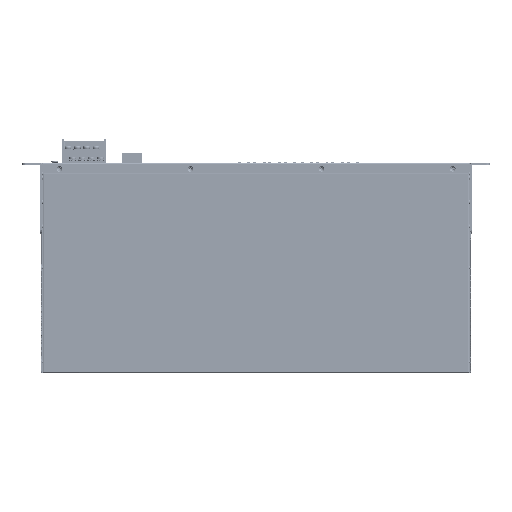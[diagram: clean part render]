
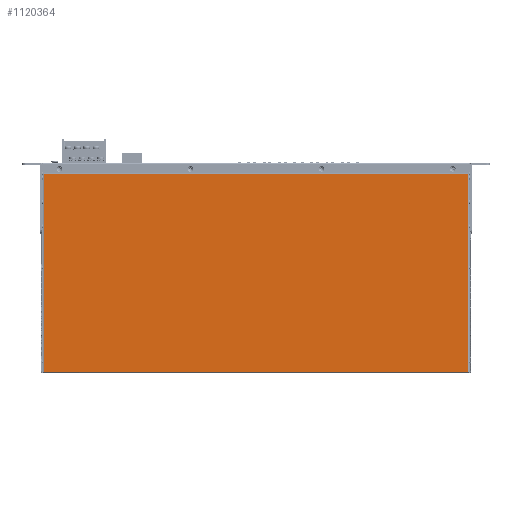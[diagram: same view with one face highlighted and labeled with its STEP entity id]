
A CAD part, front view. The second image highlights one B-rep face of the part: STEP entity #1120364.
In plain terms, the highlighted planar face has unit normal (0, -1, 0).
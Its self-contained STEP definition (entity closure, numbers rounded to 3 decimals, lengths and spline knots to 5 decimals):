
#307244=ORIENTED_EDGE('',*,*,#518808,.T.);
#307245=ORIENTED_EDGE('',*,*,#518593,.T.);
#307246=ORIENTED_EDGE('',*,*,#518624,.T.);
#307247=ORIENTED_EDGE('',*,*,#518809,.T.);
#307248=ORIENTED_EDGE('',*,*,#518237,.T.);
#307249=ORIENTED_EDGE('',*,*,#518810,.T.);
#518237=EDGE_CURVE('',#648394,#648393,#764120,.T.);
#518593=EDGE_CURVE('',#648772,#648773,#764127,.F.);
#518624=EDGE_CURVE('',#648773,#648791,#764151,.F.);
#518808=EDGE_CURVE('',#648907,#648772,#764280,.F.);
#518809=EDGE_CURVE('',#648791,#648394,#764281,.T.);
#518810=EDGE_CURVE('',#648393,#648907,#764282,.F.);
#648393=VERTEX_POINT('',#1826165);
#648394=VERTEX_POINT('',#1826167);
#648772=VERTEX_POINT('',#1827555);
#648773=VERTEX_POINT('',#1827556);
#648791=VERTEX_POINT('',#1827618);
#648907=VERTEX_POINT('',#1828041);
#764120=LINE('',#1826166,#881047);
#764127=LINE('',#1827554,#881054);
#764151=LINE('',#1827619,#881078);
#764280=LINE('',#1828040,#881207);
#764281=LINE('',#1828042,#881208);
#764282=LINE('',#1828043,#881209);
#881047=VECTOR('',#1446867,1.);
#881054=VECTOR('',#1448098,1.);
#881078=VECTOR('',#1448154,1.);
#881207=VECTOR('',#1448521,1.);
#881208=VECTOR('',#1448522,1.);
#881209=VECTOR('',#1448523,1.);
#960469=EDGE_LOOP('',(#307244,#307245,#307246,#307247,#307248,#307249));
#1023218=FACE_BOUND('',#960469,.T.);
#1067982=PLANE('',#1212275);
#1120364=ADVANCED_FACE('',(#1023218),#1067982,.F.);
#1212275=AXIS2_PLACEMENT_3D('',#1828039,#1448519,#1448520);
#1446867=DIRECTION('',(1.,0.,0.));
#1448098=DIRECTION('',(1.,0.,0.));
#1448154=DIRECTION('',(1.,0.,0.));
#1448519=DIRECTION('',(0.,1.,0.));
#1448520=DIRECTION('',(1.,0.,0.));
#1448521=DIRECTION('',(1.,0.,0.));
#1448522=DIRECTION('',(0.,0.,-1.));
#1448523=DIRECTION('',(0.,0.,-1.));
#1826165=CARTESIAN_POINT('',(0.19825,-0.006,-0.1225));
#1826166=CARTESIAN_POINT('',(-0.02,-0.006,-0.1225));
#1826167=CARTESIAN_POINT('',(-0.23725,-0.006,-0.1225));
#1827554=CARTESIAN_POINT('',(-0.02,-0.006,0.0805));
#1827555=CARTESIAN_POINT('',(0.19775,-0.006,0.0805));
#1827556=CARTESIAN_POINT('',(-0.23675,-0.006,0.0805));
#1827618=CARTESIAN_POINT('',(-0.23725,-0.006,0.0805));
#1827619=CARTESIAN_POINT('',(-0.02,-0.006,0.0805));
#1828039=CARTESIAN_POINT('',(-0.02,-0.006,-0.0075));
#1828040=CARTESIAN_POINT('',(-0.02,-0.006,0.0805));
#1828041=CARTESIAN_POINT('',(0.19825,-0.006,0.0805));
#1828042=CARTESIAN_POINT('',(-0.23725,-0.006,-0.0075));
#1828043=CARTESIAN_POINT('',(0.19825,-0.006,-0.0075));
